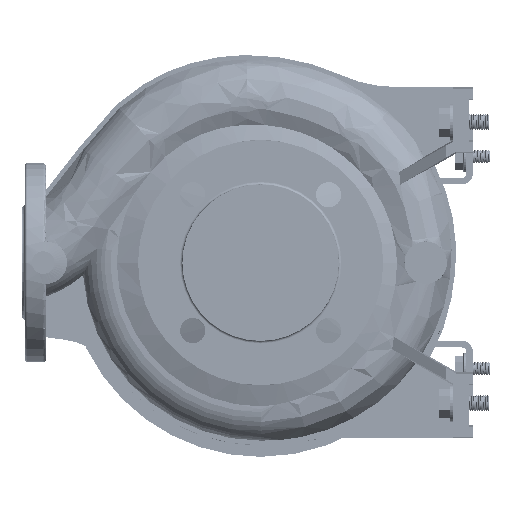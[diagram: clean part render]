
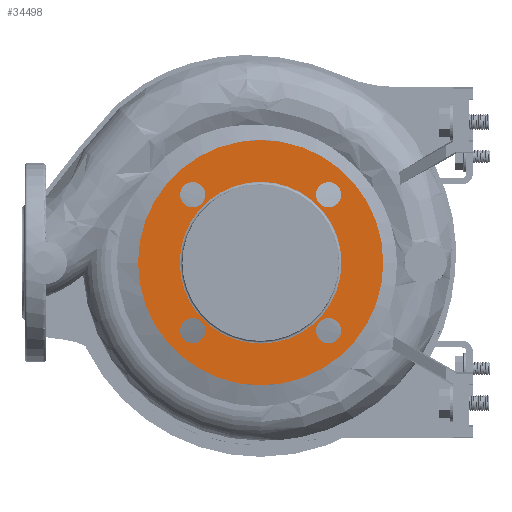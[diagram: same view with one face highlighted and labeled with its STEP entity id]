
A CAD part, left-side view. The second image highlights one B-rep face of the part: STEP entity #34498.
In plain terms, the highlighted planar face has unit normal (-1, 0, 0).
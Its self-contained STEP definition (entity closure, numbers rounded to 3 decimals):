
#141 = DIRECTION ( 'NONE',  ( -1., 0., 0. ) ) ;
#1610 = AXIS2_PLACEMENT_3D ( 'NONE', #130066, #146936, #101903 ) ;
#1995 = AXIS2_PLACEMENT_3D ( 'NONE', #172008, #84712, #128801 ) ;
#3570 = ORIENTED_EDGE ( 'NONE', *, *, #165338, .F. ) ;
#4554 = AXIS2_PLACEMENT_3D ( 'NONE', #17843, #174614, #115489 ) ;
#10218 = VERTEX_POINT ( 'NONE', #11173 ) ;
#10999 = CARTESIAN_POINT ( 'NONE',  ( -98., -41.765, -51.265 ) ) ;
#11173 = CARTESIAN_POINT ( 'NONE',  ( -98., -61., 0. ) ) ;
#12002 = ORIENTED_EDGE ( 'NONE', *, *, #20891, .F. ) ;
#13253 = ORIENTED_EDGE ( 'NONE', *, *, #105935, .F. ) ;
#13637 = FACE_BOUND ( 'NONE', #54870, .T. ) ;
#17843 = CARTESIAN_POINT ( 'NONE',  ( -98., 0., 0. ) ) ;
#20891 = EDGE_CURVE ( 'NONE', #135860, #20951, #146210, .T. ) ;
#20951 = VERTEX_POINT ( 'NONE', #108035 ) ;
#21243 = EDGE_LOOP ( 'NONE', ( #118258, #82129 ) ) ;
#24224 = VERTEX_POINT ( 'NONE', #56296 ) ;
#30397 = CARTESIAN_POINT ( 'NONE',  ( -98., 41.765, -51.265 ) ) ;
#31156 = CARTESIAN_POINT ( 'NONE',  ( -98., 60.765, 51.265 ) ) ;
#31327 = AXIS2_PLACEMENT_3D ( 'NONE', #117324, #60068, #144594 ) ;
#31909 = DIRECTION ( 'NONE',  ( 0., 0., 1. ) ) ;
#34498 = ADVANCED_FACE ( 'NONE', ( #13637, #71747, #68984, #70825, #126254, #129941 ), #84005, .F. ) ;
#35193 = CARTESIAN_POINT ( 'NONE',  ( -98., 61., 0. ) ) ;
#38761 = DIRECTION ( 'NONE',  ( 0., 1., 0. ) ) ;
#39185 = EDGE_LOOP ( 'NONE', ( #56044, #108652 ) ) ;
#39450 = CIRCLE ( 'NONE', #63384, 92.5 ) ;
#41917 = AXIS2_PLACEMENT_3D ( 'NONE', #140515, #53218, #156444 ) ;
#49167 = ORIENTED_EDGE ( 'NONE', *, *, #134662, .T. ) ;
#53218 = DIRECTION ( 'NONE',  ( -1., 0., 0. ) ) ;
#54870 = EDGE_LOOP ( 'NONE', ( #59374, #12002 ) ) ;
#55283 = EDGE_CURVE ( 'NONE', #10218, #67067, #184426, .T. ) ;
#56044 = ORIENTED_EDGE ( 'NONE', *, *, #71245, .F. ) ;
#56296 = CARTESIAN_POINT ( 'NONE',  ( -98., 92.5, 0. ) ) ;
#56350 = CARTESIAN_POINT ( 'NONE',  ( -98., -60.765, -51.265 ) ) ;
#56795 = ORIENTED_EDGE ( 'NONE', *, *, #141313, .F. ) ;
#59374 = ORIENTED_EDGE ( 'NONE', *, *, #71584, .F. ) ;
#60068 = DIRECTION ( 'NONE',  ( -1., 0., 0. ) ) ;
#63384 = AXIS2_PLACEMENT_3D ( 'NONE', #180271, #138016, #136150 ) ;
#67067 = VERTEX_POINT ( 'NONE', #35193 ) ;
#68695 = CIRCLE ( 'NONE', #116657, 9.5 ) ;
#68984 = FACE_BOUND ( 'NONE', #172108, .T. ) ;
#70651 = VERTEX_POINT ( 'NONE', #110918 ) ;
#70825 = FACE_BOUND ( 'NONE', #39185, .T. ) ;
#71214 = VERTEX_POINT ( 'NONE', #10999 ) ;
#71245 = EDGE_CURVE ( 'NONE', #70651, #182566, #107816, .T. ) ;
#71294 = EDGE_LOOP ( 'NONE', ( #49167, #152257 ) ) ;
#71584 = EDGE_CURVE ( 'NONE', #20951, #135860, #72012, .T. ) ;
#71747 = FACE_BOUND ( 'NONE', #155001, .T. ) ;
#72012 = CIRCLE ( 'NONE', #83972, 9.5 ) ;
#72694 = CARTESIAN_POINT ( 'NONE',  ( -98., 0., 0. ) ) ;
#81116 = DIRECTION ( 'NONE',  ( -1., 0., 0. ) ) ;
#82129 = ORIENTED_EDGE ( 'NONE', *, *, #151678, .F. ) ;
#82213 = CIRCLE ( 'NONE', #145061, 9.5 ) ;
#83972 = AXIS2_PLACEMENT_3D ( 'NONE', #110945, #141, #125949 ) ;
#84005 = PLANE ( 'NONE',  #111224 ) ;
#84712 = DIRECTION ( 'NONE',  ( -1., 0., 0. ) ) ;
#85194 = CARTESIAN_POINT ( 'NONE',  ( -98., -41.765, 51.265 ) ) ;
#85368 = AXIS2_PLACEMENT_3D ( 'NONE', #72694, #112191, #154463 ) ;
#89321 = CARTESIAN_POINT ( 'NONE',  ( -98., -92.5, 0. ) ) ;
#90075 = DIRECTION ( 'NONE',  ( -1., 0., 0. ) ) ;
#91407 = CIRCLE ( 'NONE', #4554, 61. ) ;
#91535 = CIRCLE ( 'NONE', #1610, 9.5 ) ;
#93934 = VERTEX_POINT ( 'NONE', #56350 ) ;
#94299 = CIRCLE ( 'NONE', #31327, 9.5 ) ;
#99312 = ORIENTED_EDGE ( 'NONE', *, *, #105002, .F. ) ;
#101903 = DIRECTION ( 'NONE',  ( 0., -1., 0. ) ) ;
#105002 = EDGE_CURVE ( 'NONE', #172897, #129432, #82213, .T. ) ;
#105935 = EDGE_CURVE ( 'NONE', #129432, #172897, #94299, .T. ) ;
#107816 = CIRCLE ( 'NONE', #41917, 9.5 ) ;
#108035 = CARTESIAN_POINT ( 'NONE',  ( -98., -60.765, 51.265 ) ) ;
#108652 = ORIENTED_EDGE ( 'NONE', *, *, #152593, .F. ) ;
#110918 = CARTESIAN_POINT ( 'NONE',  ( -98., 41.765, 51.265 ) ) ;
#110945 = CARTESIAN_POINT ( 'NONE',  ( -98., -51.265, 51.265 ) ) ;
#111224 = AXIS2_PLACEMENT_3D ( 'NONE', #128098, #141291, #112177 ) ;
#112177 = DIRECTION ( 'NONE',  ( 0., 1., 0. ) ) ;
#112191 = DIRECTION ( 'NONE',  ( -1., 0., 0. ) ) ;
#115489 = DIRECTION ( 'NONE',  ( 0., -1., 0. ) ) ;
#116657 = AXIS2_PLACEMENT_3D ( 'NONE', #123363, #81116, #149671 ) ;
#117041 = AXIS2_PLACEMENT_3D ( 'NONE', #141952, #167342, #38761 ) ;
#117324 = CARTESIAN_POINT ( 'NONE',  ( -98., 51.265, -51.265 ) ) ;
#118258 = ORIENTED_EDGE ( 'NONE', *, *, #55283, .F. ) ;
#118938 = CIRCLE ( 'NONE', #1995, 92.5 ) ;
#119274 = AXIS2_PLACEMENT_3D ( 'NONE', #148434, #181254, #166234 ) ;
#122394 = EDGE_CURVE ( 'NONE', #24224, #123076, #39450, .T. ) ;
#123076 = VERTEX_POINT ( 'NONE', #89321 ) ;
#123363 = CARTESIAN_POINT ( 'NONE',  ( -98., -51.265, -51.265 ) ) ;
#125949 = DIRECTION ( 'NONE',  ( 0., 0., -1. ) ) ;
#126254 = FACE_BOUND ( 'NONE', #21243, .T. ) ;
#128098 = CARTESIAN_POINT ( 'NONE',  ( -98., 61., 0. ) ) ;
#128801 = DIRECTION ( 'NONE',  ( 0., -1., 0. ) ) ;
#129432 = VERTEX_POINT ( 'NONE', #30397 ) ;
#129941 = FACE_OUTER_BOUND ( 'NONE', #71294, .T. ) ;
#130066 = CARTESIAN_POINT ( 'NONE',  ( -98., 51.265, 51.265 ) ) ;
#134662 = EDGE_CURVE ( 'NONE', #123076, #24224, #118938, .T. ) ;
#135860 = VERTEX_POINT ( 'NONE', #85194 ) ;
#136150 = DIRECTION ( 'NONE',  ( 0., -1., 0. ) ) ;
#138016 = DIRECTION ( 'NONE',  ( -1., 0., 0. ) ) ;
#140515 = CARTESIAN_POINT ( 'NONE',  ( -98., 51.265, 51.265 ) ) ;
#141291 = DIRECTION ( 'NONE',  ( 1., 0., 0. ) ) ;
#141313 = EDGE_CURVE ( 'NONE', #93934, #71214, #170963, .T. ) ;
#141952 = CARTESIAN_POINT ( 'NONE',  ( -98., -51.265, -51.265 ) ) ;
#144594 = DIRECTION ( 'NONE',  ( 0., 0., 1. ) ) ;
#145061 = AXIS2_PLACEMENT_3D ( 'NONE', #160492, #90075, #31909 ) ;
#146210 = CIRCLE ( 'NONE', #119274, 9.5 ) ;
#146936 = DIRECTION ( 'NONE',  ( -1., 0., 0. ) ) ;
#148434 = CARTESIAN_POINT ( 'NONE',  ( -98., -51.265, 51.265 ) ) ;
#149671 = DIRECTION ( 'NONE',  ( 0., 1., 0. ) ) ;
#151678 = EDGE_CURVE ( 'NONE', #67067, #10218, #91407, .T. ) ;
#152257 = ORIENTED_EDGE ( 'NONE', *, *, #122394, .T. ) ;
#152593 = EDGE_CURVE ( 'NONE', #182566, #70651, #91535, .T. ) ;
#154463 = DIRECTION ( 'NONE',  ( 0., -1., 0. ) ) ;
#155001 = EDGE_LOOP ( 'NONE', ( #56795, #3570 ) ) ;
#156444 = DIRECTION ( 'NONE',  ( 0., -1., 0. ) ) ;
#160492 = CARTESIAN_POINT ( 'NONE',  ( -98., 51.265, -51.265 ) ) ;
#161631 = CARTESIAN_POINT ( 'NONE',  ( -98., 60.765, -51.265 ) ) ;
#165338 = EDGE_CURVE ( 'NONE', #71214, #93934, #68695, .T. ) ;
#166234 = DIRECTION ( 'NONE',  ( 0., 0., -1. ) ) ;
#167342 = DIRECTION ( 'NONE',  ( -1., 0., 0. ) ) ;
#170963 = CIRCLE ( 'NONE', #117041, 9.5 ) ;
#172008 = CARTESIAN_POINT ( 'NONE',  ( -98., 0., 0. ) ) ;
#172108 = EDGE_LOOP ( 'NONE', ( #13253, #99312 ) ) ;
#172897 = VERTEX_POINT ( 'NONE', #161631 ) ;
#174614 = DIRECTION ( 'NONE',  ( -1., 0., 0. ) ) ;
#180271 = CARTESIAN_POINT ( 'NONE',  ( -98., 0., 0. ) ) ;
#181254 = DIRECTION ( 'NONE',  ( -1., 0., 0. ) ) ;
#182566 = VERTEX_POINT ( 'NONE', #31156 ) ;
#184426 = CIRCLE ( 'NONE', #85368, 61. ) ;
